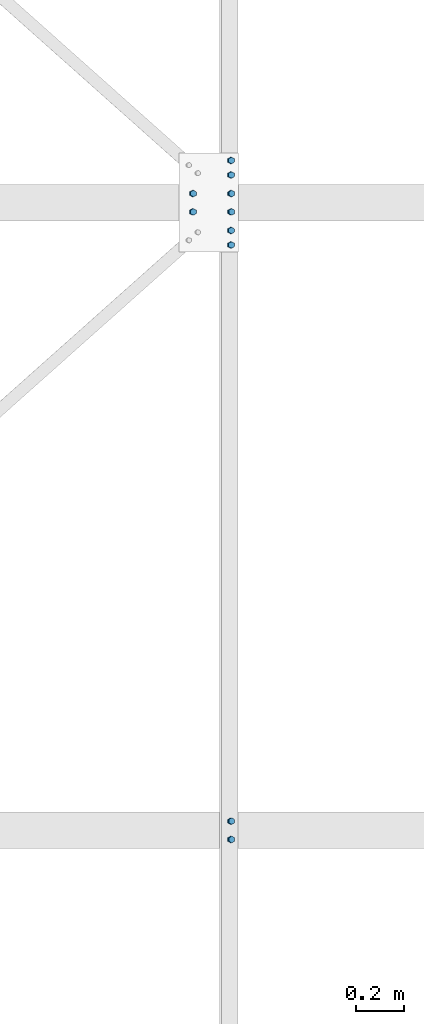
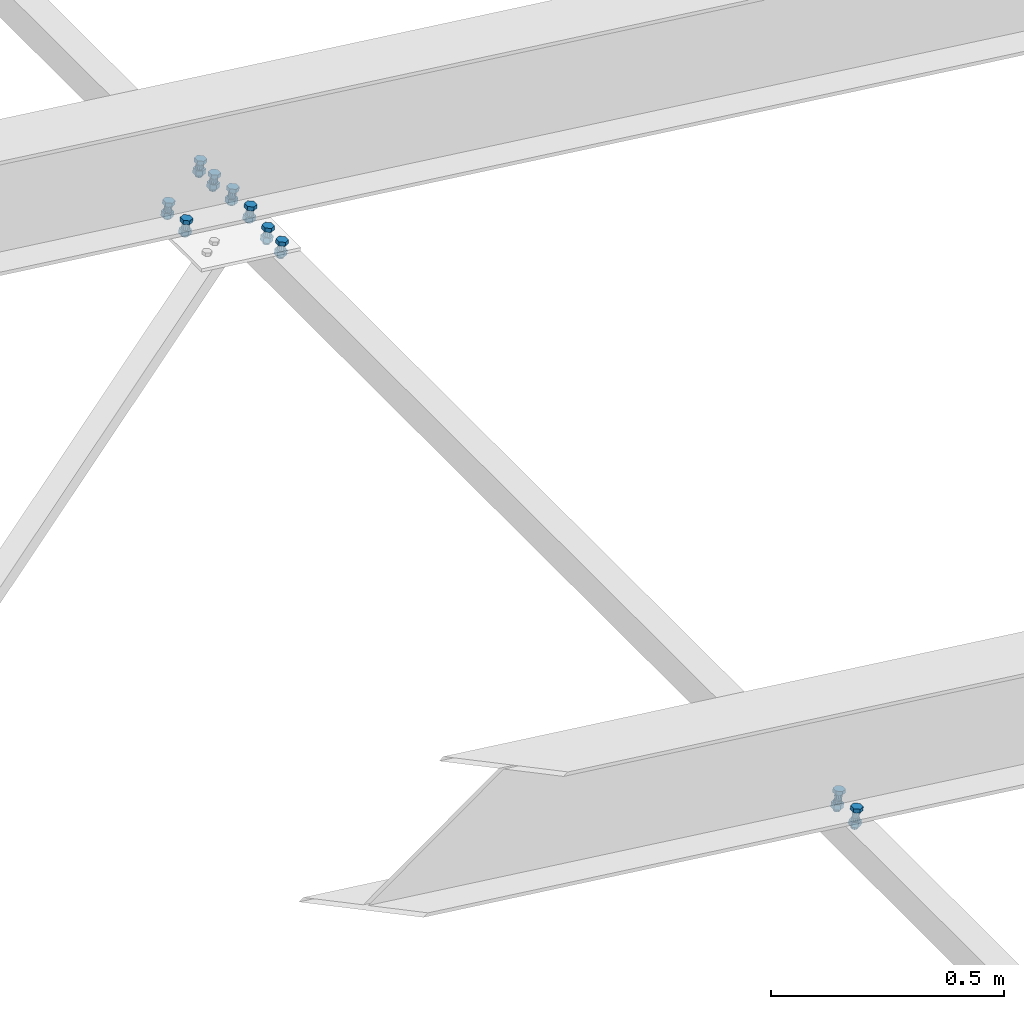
# One storey, part 254 of 3134: 4 mechanical fasteners, 3 elements without a shape of their own.
"""IFC2X3 building model written with IfcOpenShell, lengths in millimetres."""

import ifcopenshell
import ifcopenshell.guid

model = None  # the IFC model being written
_history = None  # IfcOwnerHistory: only IFC2X3 demands one
_inside = {}  # id of a spatial element -> (the spatial element, [elements in it])
_under = {}  # id of a project, library or spatial element -> (it, [spatial elements below it])
_declared = {}  # id of a project -> (the project, [libraries it declares])
_typed = {}  # id of a type object -> (the type object, [elements of that type])
_made_of = {}  # id of a material, layer set ... -> (it, [elements and type objects made of it])


def new_model(schema):
    """Start an empty IFC model of exactly this schema.

    Asked for "IFC4X3", IfcOpenShell would pick the latest addendum, in which some entities
    have other attributes; the version numbers below select the first issue.
    IFC2X3 requires an IfcOwnerHistory on every rooted entity: one is made here for all.
    """
    global model, _history
    if schema == "IFC4X3":
        model = ifcopenshell.file(schema_version=(4, 3, 0, 0))
    else:
        model = ifcopenshell.file(schema=schema)
    _inside.clear()
    _under.clear()
    _declared.clear()
    _typed.clear()
    _made_of.clear()
    _history = None
    if model.schema == "IFC2X3":
        org = make("IfcOrganization", Name="unknown")
        user = make(
            "IfcPersonAndOrganization",
            ThePerson=make("IfcPerson", FamilyName="unknown"),
            TheOrganization=org,
        )
        app = make(
            "IfcApplication",
            ApplicationDeveloper=org,
            Version="unknown",
            ApplicationFullName="unknown",
            ApplicationIdentifier="unknown",
        )
        _history = make(
            "IfcOwnerHistory",
            OwningUser=user,
            OwningApplication=app,
            ChangeAction="ADDED",
            CreationDate=0,
        )
    return model


def make(cls, **values):
    """One entity of the class cls with the attributes given. An attribute that is None is left unset."""
    return model.create_entity(
        cls, **{name: value for name, value in values.items() if value is not None}
    )


def rooted(cls, **values):
    """An entity with a GlobalId (a new one), such as an element, a storey or a relation."""
    return make(cls, GlobalId=ifcopenshell.guid.new(), OwnerHistory=_history, **values)


def si_unit(unit_type, name, prefix=None):
    """IfcSIUnit, for example si_unit("LENGTHUNIT", "METRE", prefix="MILLI")."""
    return make("IfcSIUnit", UnitType=unit_type, Prefix=prefix, Name=name)


def assignment(units):
    """IfcUnitAssignment: the units of a project."""
    return None if units is None else make("IfcUnitAssignment", Units=units)


def point(xyz):
    """IfcCartesianPoint."""
    return None if xyz is None else make("IfcCartesianPoint", Coordinates=xyz)


def direction(xyz):
    """IfcDirection."""
    return None if xyz is None else make("IfcDirection", DirectionRatios=xyz)


def frame(location, z_axis=None, x_axis=None):
    """IfcAxis2Placement3D, a coordinate frame: its origin and axes. An axis left out is left unset."""
    return make(
        "IfcAxis2Placement3D",
        Location=point(location),
        Axis=direction(z_axis),
        RefDirection=direction(x_axis),
    )


def origin_with_axes():
    """The frame at (0, 0, 0) with the z axis (0, 0, 1) and the x axis (1, 0, 0) written out."""
    return frame((0.0, 0.0, 0.0), z_axis=(0.0, 0.0, 1.0), x_axis=(1.0, 0.0, 0.0))


def place(relative_to, where):
    """IfcLocalPlacement: puts the frame where relative to a parent placement (None: the world)."""
    return make(
        "IfcLocalPlacement", PlacementRelTo=relative_to, RelativePlacement=where
    )


def context(
    kind, dimensions, precision=None, world=None, true_north=None, identifier=None
):
    """IfcGeometricRepresentationContext, for example the 3D "Model" context."""
    return make(
        "IfcGeometricRepresentationContext",
        ContextIdentifier=identifier,
        ContextType=kind,
        CoordinateSpaceDimension=dimensions,
        Precision=precision,
        WorldCoordinateSystem=world,
        TrueNorth=true_north,
    )


def subcontext(parent, identifier, kind, view, scale=None):
    """IfcGeometricRepresentationSubContext, for example "Body" below "Model"."""
    return make(
        "IfcGeometricRepresentationSubContext",
        ContextIdentifier=identifier,
        ContextType=kind,
        ParentContext=parent,
        TargetScale=scale,
        TargetView=view,
    )


def project(units=None, contexts=None):
    """IfcProject with its units and contexts."""
    return rooted(
        "IfcProject",
        Name="project",
        RepresentationContexts=contexts,
        UnitsInContext=assignment(units),
    )


def spatial(cls, under=None, at=None, **own):
    """A site, building, storey or space (cls), placed at a placement, below another one or the project."""
    s = rooted(cls, ObjectPlacement=at, **own)
    if under is not None:
        _under.setdefault(under.id(), (under, []))[1].append(s)
    return s


def faces_of(points, faces, orient=None, outer=None):
    """IfcFace entities. A face is a list of loops; a loop is a list of indices into points, from 0.

    orient and outer hold one flag for each loop. By default every Orientation is true, the
    first loop of a face is its IfcFaceOuterBound and the others are IfcFaceBound.
    """
    made = []
    for i, loops in enumerate(faces):
        bounds = []
        for j, loop in enumerate(loops):
            is_outer = j == 0 if outer is None else outer[i][j]
            bounds.append(
                make(
                    "IfcFaceOuterBound" if is_outer else "IfcFaceBound",
                    Bound=make("IfcPolyLoop", Polygon=[points[k] for k in loop]),
                    Orientation=True if orient is None else orient[i][j],
                )
            )
        made.append(make("IfcFace", Bounds=bounds))
    return made


def faceted_brep(points, faces, orient=None, outer=None, voids=None):
    """IfcFacetedBrep: a solid bounded by flat faces; with voids (closed shells), ...WithVoids."""
    shared = [point(p) for p in points]
    hull = make("IfcClosedShell", CfsFaces=faces_of(shared, faces, orient, outer))
    if voids is None:
        return make("IfcFacetedBrep", Outer=hull)
    return make(
        "IfcFacetedBrepWithVoids",
        Outer=hull,
        Voids=[
            make(cls, CfsFaces=faces_of(shared, fs, o, b)) for cls, fs, o, b in voids
        ],
    )


def shape(context_of_items, identifier, shape_type, items):
    """IfcShapeRepresentation: the items that make up one representation, for example the "Body"."""
    return make(
        "IfcShapeRepresentation",
        ContextOfItems=context_of_items,
        RepresentationIdentifier=identifier,
        RepresentationType=shape_type,
        Items=items,
    )


def source(mapping_origin, context_of_items, identifier, shape_type, items):
    """IfcRepresentationMap: a shape defined once, which mapped items show again and again."""
    return make(
        "IfcRepresentationMap",
        MappingOrigin=mapping_origin,
        MappedRepresentation=shape(context_of_items, identifier, shape_type, items),
    )


def transform(
    local_origin,
    x_axis=None,
    y_axis=None,
    z_axis=None,
    scale=None,
    scale2=None,
    scale3=None,
    uniform=True,
):
    """IfcCartesianTransformationOperator3D, or its non-uniform kind. x_axis, y_axis, z_axis: its Axis1, 2, 3."""
    if uniform:
        return make(
            "IfcCartesianTransformationOperator3D",
            Axis1=direction(x_axis),
            Axis2=direction(y_axis),
            LocalOrigin=point(local_origin),
            Scale=scale,
            Axis3=direction(z_axis),
        )
    return make(
        "IfcCartesianTransformationOperator3DnonUniform",
        Axis1=direction(x_axis),
        Axis2=direction(y_axis),
        LocalOrigin=point(local_origin),
        Scale=scale,
        Axis3=direction(z_axis),
        Scale2=scale2,
        Scale3=scale3,
    )


def mapped(mapping_source, mapping_target):
    """IfcMappedItem: shows the shape of a source again, moved by a transform."""
    return make(
        "IfcMappedItem", MappingSource=mapping_source, MappingTarget=mapping_target
    )


def material(Name=None, Category=None):
    """IfcMaterial."""
    return make("IfcMaterial", Name=Name, Category=Category)


def made_of(thing, what):
    """Note that an element or type object is made of a material, layer set ...; save() writes the relation."""
    if what is not None:
        _made_of.setdefault(what.id(), (what, []))[1].append(thing)
    return thing


def type_object(cls, material=None, **own):
    """A type object (cls), such as IfcWallType, which elements share."""
    return made_of(rooted(cls, **own), material)


def element(
    cls,
    number,
    at=None,
    inside=None,
    cuts=None,
    type_object=None,
    material=None,
    context=None,
    identifier="Body",
    shape_type=None,
    held_by="IfcProductDefinitionShape",
    body=None,
    shapes=None,
    **own,
):
    """One element of the class cls, such as IfcWall. Its Tag is "e" and its number.

    at: its placement. inside: the storey or other place that contains it. cuts: it is an
    opening in that element (IfcRelVoidsElement). A single representation is given by context,
    identifier, shape_type and body (its items); several are given by shapes. held_by: the class
    of the entity that holds the representations. save() writes the other relations.
    """
    e = rooted(cls, Tag="e%d" % number, ObjectPlacement=at, **own)
    if body is not None:
        shapes = [shape(context, identifier, shape_type, body)]
    if shapes is not None:
        e.Representation = make(held_by, Representations=shapes)
    if inside is not None:
        _inside.setdefault(inside.id(), (inside, []))[1].append(e)
    if cuts is not None:
        rooted(
            "IfcRelVoidsElement", RelatingBuildingElement=cuts, RelatedOpeningElement=e
        )
    if type_object is not None:
        _typed.setdefault(type_object.id(), (type_object, []))[1].append(e)
    return made_of(e, material)


def aggregate(whole, parts):
    """IfcRelAggregates: a whole, such as a stair, and the parts it consists of."""
    return rooted("IfcRelAggregates", RelatingObject=whole, RelatedObjects=parts)


def save(model, path):
    """Write the relations noted so far, then the file.

    IfcRelAggregates (storeys below a building ...), IfcRelContainedInSpatialStructure (elements
    in a storey), IfcRelDefinesByType, IfcRelAssociatesMaterial and IfcRelDeclares: one each for
    every whole, place, type object, material and project.
    """
    for whole, parts in _under.values():
        aggregate(whole, parts)
    for where, things in _inside.values():
        rooted(
            "IfcRelContainedInSpatialStructure",
            RelatedElements=things,
            RelatingStructure=where,
        )
    for kind, things in _typed.values():
        rooted("IfcRelDefinesByType", RelatedObjects=things, RelatingType=kind)
    for what, things in _made_of.values():
        rooted("IfcRelAssociatesMaterial", RelatedObjects=things, RelatingMaterial=what)
    for by, libraries in _declared.values():
        rooted("IfcRelDeclares", RelatingContext=by, RelatedDefinitions=libraries)
    model.write(path)


model = new_model("IFC2X3")

# Units and contexts
model_context = context("Model", 3, precision=1e-05, world=origin_with_axes())
body_context = subcontext(model_context, "Body", "Model", "MODEL_VIEW")
ifc_project = project(units=[si_unit("LENGTHUNIT", "METRE", prefix="MILLI"), si_unit("AREAUNIT", "SQUARE_METRE"), si_unit("VOLUMEUNIT", "CUBIC_METRE"), si_unit("MASSUNIT", "GRAM", prefix="KILO"), si_unit("TIMEUNIT", "SECOND"), si_unit("PLANEANGLEUNIT", "RADIAN"), si_unit("SOLIDANGLEUNIT", "STERADIAN"), si_unit("THERMODYNAMICTEMPERATUREUNIT", "DEGREE_CELSIUS"), si_unit("LUMINOUSINTENSITYUNIT", "LUMEN")], contexts=[model_context])

# Site, building, storey
site_placement = place(None, origin_with_axes())
site = spatial("IfcSite", under=ifc_project, at=site_placement, CompositionType="ELEMENT")
building_placement = place(site_placement, origin_with_axes())
building = spatial("IfcBuilding", under=site, at=building_placement, Name="Undefined", CompositionType="ELEMENT")
storey_placement = place(building_placement, origin_with_axes())
storey = spatial("IfcBuildingStorey", under=building, at=storey_placement, Name="Undefined", CompositionType="ELEMENT", Elevation=0.0)

# Assembly, mechanical fastener
assembly_1_placement = place(storey_placement, origin_with_axes())
assembly_1 = element("IfcElementAssembly", 1, at=assembly_1_placement, inside=storey, Name="300", AssemblyPlace="NOTDEFINED", PredefinedType="RIGID_FRAME")
ifc_material = material(Name="8.8")
mechanical_fastener_type = type_object("IfcMechanicalFastenerType", Name="Bolt assembly")
shared_shape_1 = source(origin_with_axes(), body_context, "Body", "Brep", [
    faceted_brep([(13.856406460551, -19.199990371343, 0.0), (6.92820323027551, -19.199990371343, 12.0), (-6.92820323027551, -19.199990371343, 12.0), (-13.856406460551, -19.199990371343, 1.69692038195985e-15), (-6.92820323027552, -19.199990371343, -12.0), (6.9282032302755, -19.199990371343, -12.0), (6.9282032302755, -9.19999037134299, -12.0), (-6.92820323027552, -9.19999037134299, -12.0), (-13.856406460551, -9.19999037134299, 1.69692038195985e-15), (-6.92820323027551, -9.19999037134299, 12.0), (6.92820323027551, -9.19999037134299, 12.0), (13.856406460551, -9.19999037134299, 0.0), (8.0, -9.19999037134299, 0.0), (6.92820323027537, -9.19999037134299, 4.00000000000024), (3.99999999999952, -9.19999037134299, 6.92820323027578), (-8.29068785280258e-13, -9.19999037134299, 8.0), (-4.00000000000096, -9.19999037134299, 6.92820323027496), (-6.9282032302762, -9.19999037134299, 3.99999999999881), (-8.0, -9.19999037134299, -1.65813757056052e-12), (-6.92820323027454, -9.19999037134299, -4.00000000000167), (-3.99999999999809, -9.19999037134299, -6.92820323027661), (2.47832457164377e-12, -9.19999037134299, -8.0), (4.00000000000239, -9.19999037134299, -6.92820323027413), (6.92820323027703, -9.19999037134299, -3.99999999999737), (6.92820323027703, 25.800009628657, -3.99999999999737), (4.00000000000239, 25.800009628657, -6.92820323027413), (2.47832457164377e-12, 25.800009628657, -8.0), (-3.99999999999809, 25.800009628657, -6.92820323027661), (-6.92820323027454, 25.800009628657, -4.00000000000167), (-8.0, 25.800009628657, -1.65813757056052e-12), (-6.9282032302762, 25.800009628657, 3.99999999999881), (-4.00000000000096, 25.800009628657, 6.92820323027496), (-8.29068785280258e-13, 25.800009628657, 8.0), (3.99999999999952, 25.800009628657, 6.92820323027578), (6.92820323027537, 25.800009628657, 4.00000000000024), (8.0, 25.800009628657, 0.0), (13.856406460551, 8.00000637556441, 0.0), (6.92820323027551, 8.00000637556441, 12.0), (-6.92820323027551, 8.00000637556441, 12.0), (-13.856406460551, 8.00000637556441, 1.69692038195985e-15), (-6.92820323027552, 8.00000637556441, -12.0), (6.9282032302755, 8.00000637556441, -12.0), (6.9282032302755, 21.0000063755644, -12.0), (-6.92820323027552, 21.0000063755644, -12.0), (-13.856406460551, 21.0000063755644, 1.69692038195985e-15), (-6.92820323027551, 21.0000063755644, 12.0), (6.92820323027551, 21.0000063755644, 12.0), (13.856406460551, 21.0000063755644, 0.0)], [[[0, 1, 2, 3, 4, 5]], [[6, 7, 8, 9, 10, 11]], [[0, 11, 10, 1]], [[1, 10, 9, 2]], [[2, 9, 8, 3]], [[3, 8, 7, 4]], [[4, 7, 6, 5]], [[5, 6, 11, 0]], [[12, 13, 14, 15, 16, 17, 18, 19, 20, 21, 22, 23]], [[24, 25, 26, 27, 28, 29, 30, 31, 32, 33, 34, 35]], [[12, 35, 34, 13]], [[13, 34, 33, 14]], [[14, 33, 32, 15]], [[15, 32, 31, 16]], [[16, 31, 30, 17]], [[17, 30, 29, 18]], [[18, 29, 28, 19]], [[19, 28, 27, 20]], [[20, 27, 26, 21]], [[21, 26, 25, 22]], [[22, 25, 24, 23]], [[23, 24, 35, 12]], [[36, 37, 38, 39, 40, 41]], [[42, 43, 44, 45, 46, 47]], [[36, 47, 46, 37]], [[37, 46, 45, 38]], [[38, 45, 44, 39]], [[39, 44, 43, 40]], [[40, 43, 42, 41]], [[41, 42, 47, 36]]]),
    faceted_brep([(9.0, -0.1, 0.0), (7.79422863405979, -0.1, 4.50000000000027), (4.49999999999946, -0.1, 7.79422863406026), (-9.3270238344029e-13, -0.1, 9.0), (-4.50000000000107, -0.1, 7.79422863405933), (-7.79422863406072, -0.1, 4.49999999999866), (-9.0, -0.1, -1.86540476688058e-12), (-7.79422863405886, -0.1, -4.50000000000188), (-4.49999999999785, -0.1, -7.79422863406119), (2.78811514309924e-12, -0.1, -9.0), (4.50000000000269, -0.1, -7.7942286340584), (7.79422863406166, -0.1, -4.49999999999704), (7.79422863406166, 8.00000000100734, -4.49999999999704), (4.50000000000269, 8.00000000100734, -7.7942286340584), (2.78811514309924e-12, 8.00000000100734, -9.0), (-4.49999999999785, 8.00000000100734, -7.79422863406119), (-7.79422863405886, 8.00000000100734, -4.50000000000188), (-9.0, 8.00000000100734, -1.86540476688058e-12), (-7.79422863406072, 8.00000000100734, 4.49999999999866), (-4.50000000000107, 8.00000000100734, 7.79422863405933), (-9.3270238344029e-13, 8.00000000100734, 9.0), (4.49999999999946, 8.00000000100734, 7.79422863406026), (7.79422863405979, 8.00000000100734, 4.50000000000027), (9.0, 8.00000000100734, 0.0), (9.0, -9.09999037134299, 0.0), (7.79422863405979, -9.09999037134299, 4.50000000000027), (4.49999999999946, -9.09999037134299, 7.79422863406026), (-9.3270238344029e-13, -9.09999037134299, 9.0), (-4.50000000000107, -9.09999037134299, 7.79422863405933), (-7.79422863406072, -9.09999037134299, 4.49999999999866), (-9.0, -9.09999037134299, -1.86540476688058e-12), (-7.79422863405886, -9.09999037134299, -4.50000000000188), (-4.49999999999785, -9.09999037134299, -7.79422863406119), (2.78811514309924e-12, -9.09999037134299, -9.0), (4.50000000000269, -9.09999037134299, -7.7942286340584), (7.79422863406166, -9.09999037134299, -4.49999999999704), (7.79422863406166, 0.100000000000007, -4.49999999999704), (4.50000000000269, 0.100000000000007, -7.7942286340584), (2.78811514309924e-12, 0.100000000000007, -9.0), (-4.49999999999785, 0.100000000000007, -7.79422863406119), (-7.79422863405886, 0.100000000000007, -4.50000000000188), (-9.0, 0.100000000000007, -1.86540476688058e-12), (-7.79422863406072, 0.100000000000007, 4.49999999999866), (-4.50000000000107, 0.100000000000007, 7.79422863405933), (-9.3270238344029e-13, 0.100000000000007, 9.0), (4.49999999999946, 0.100000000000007, 7.79422863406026), (7.79422863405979, 0.100000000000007, 4.50000000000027), (9.0, 0.100000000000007, 0.0)], [[[0, 1, 2, 3, 4, 5, 6, 7, 8, 9, 10, 11]], [[12, 13, 14, 15, 16, 17, 18, 19, 20, 21, 22, 23]], [[0, 23, 22, 1]], [[1, 22, 21, 2]], [[2, 21, 20, 3]], [[3, 20, 19, 4]], [[4, 19, 18, 5]], [[5, 18, 17, 6]], [[6, 17, 16, 7]], [[7, 16, 15, 8]], [[8, 15, 14, 9]], [[9, 14, 13, 10]], [[10, 13, 12, 11]], [[11, 12, 23, 0]], [[24, 25, 26, 27, 28, 29, 30, 31, 32, 33, 34, 35]], [[36, 37, 38, 39, 40, 41, 42, 43, 44, 45, 46, 47]], [[24, 47, 46, 25]], [[25, 46, 45, 26]], [[26, 45, 44, 27]], [[27, 44, 43, 28]], [[28, 43, 42, 29]], [[29, 42, 41, 30]], [[30, 41, 40, 31]], [[31, 40, 39, 32]], [[32, 39, 38, 33]], [[33, 38, 37, 34]], [[34, 37, 36, 35]], [[35, 36, 47, 24]]]),
])
mechanical_fastener_1_placement = place(assembly_1_placement, frame((38283.5751064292, 45412.0, 4816.43281405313), z_axis=(-0.992623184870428, 0.0, 0.121240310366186), x_axis=(0.0, 1.0, 0.0)))
mechanical_fastener_1 = element("IfcMechanicalFastener", 2, at=mechanical_fastener_1_placement, type_object=mechanical_fastener_type, material=ifc_material, Name="Bolt assembly", NominalDiameter=16.0, NominalLength=35.0, context=body_context, shape_type="MappedRepresentation", body=[
    mapped(shared_shape_1, transform((0.0, -5.32963895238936e-10, -79.9999999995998))),
    mapped(shared_shape_1, transform((76.0, -5.32963895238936e-10, -79.9999999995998))),
    mapped(shared_shape_1, transform((0.0, 5.3114490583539e-10, 79.9999999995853))),
    mapped(shared_shape_1, transform((76.0, 5.3114490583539e-10, 79.9999999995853))),
])
aggregate(assembly_1, [mechanical_fastener_1])

# Assembly, mechanical fasteners
assembly_2_placement = place(storey_placement, origin_with_axes())
assembly_2 = element("IfcElementAssembly", 3, at=assembly_2_placement, inside=storey, Name="PL8", AssemblyPlace="NOTDEFINED", PredefinedType="RIGID_FRAME")
shared_shape_2 = source(origin_with_axes(), body_context, "Body", "Brep", [
    faceted_brep([(13.856406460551, -10.0, 0.0), (6.92820323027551, -10.0, 12.0), (-6.92820323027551, -10.0, 12.0), (-13.856406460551, -10.0, 1.69692038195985e-15), (-6.92820323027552, -10.0, -12.0), (6.9282032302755, -10.0, -12.0), (6.9282032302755, 0.0, -12.0), (-6.92820323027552, 0.0, -12.0), (-13.856406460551, 0.0, 1.69692038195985e-15), (-6.92820323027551, 0.0, 12.0), (6.92820323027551, 0.0, 12.0), (13.856406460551, 0.0, 0.0), (8.0, 0.0, 0.0), (6.92820323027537, 0.0, 4.00000000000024), (3.99999999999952, 0.0, 6.92820323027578), (-8.29068785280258e-13, 0.0, 8.0), (-4.00000000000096, 0.0, 6.92820323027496), (-6.9282032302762, 0.0, 3.99999999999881), (-8.0, 0.0, -1.65813757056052e-12), (-6.92820323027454, 0.0, -4.00000000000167), (-3.99999999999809, 0.0, -6.92820323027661), (2.47832457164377e-12, 0.0, -8.0), (4.00000000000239, 0.0, -6.92820323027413), (6.92820323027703, 0.0, -3.99999999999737), (6.92820323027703, 35.0000000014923, -3.99999999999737), (4.00000000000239, 35.0000000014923, -6.92820323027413), (2.47832457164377e-12, 35.0000000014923, -8.0), (-3.99999999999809, 35.0000000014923, -6.92820323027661), (-6.92820323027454, 35.0000000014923, -4.00000000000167), (-8.0, 35.0000000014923, -1.65813757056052e-12), (-6.9282032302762, 35.0000000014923, 3.99999999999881), (-4.00000000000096, 35.0000000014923, 6.92820323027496), (-8.29068785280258e-13, 35.0000000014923, 8.0), (3.99999999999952, 35.0000000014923, 6.92820323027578), (6.92820323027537, 35.0000000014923, 4.00000000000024), (8.0, 35.0000000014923, 0.0), (13.856406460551, 14.9990000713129, 0.0), (6.92820323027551, 14.9990000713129, 12.0), (-6.92820323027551, 14.9990000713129, 12.0), (-13.856406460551, 14.9990000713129, 1.69692038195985e-15), (-6.92820323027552, 14.9990000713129, -12.0), (6.9282032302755, 14.9990000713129, -12.0), (6.9282032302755, 27.9990000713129, -12.0), (-6.92820323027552, 27.9990000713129, -12.0), (-13.856406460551, 27.9990000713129, 1.69692038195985e-15), (-6.92820323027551, 27.9990000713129, 12.0), (6.92820323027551, 27.9990000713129, 12.0), (13.856406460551, 27.9990000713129, 0.0)], [[[0, 1, 2, 3, 4, 5]], [[6, 7, 8, 9, 10, 11]], [[0, 11, 10, 1]], [[1, 10, 9, 2]], [[2, 9, 8, 3]], [[3, 8, 7, 4]], [[4, 7, 6, 5]], [[5, 6, 11, 0]], [[12, 13, 14, 15, 16, 17, 18, 19, 20, 21, 22, 23]], [[24, 25, 26, 27, 28, 29, 30, 31, 32, 33, 34, 35]], [[12, 35, 34, 13]], [[13, 34, 33, 14]], [[14, 33, 32, 15]], [[15, 32, 31, 16]], [[16, 31, 30, 17]], [[17, 30, 29, 18]], [[18, 29, 28, 19]], [[19, 28, 27, 20]], [[20, 27, 26, 21]], [[21, 26, 25, 22]], [[22, 25, 24, 23]], [[23, 24, 35, 12]], [[36, 37, 38, 39, 40, 41]], [[42, 43, 44, 45, 46, 47]], [[36, 47, 46, 37]], [[37, 46, 45, 38]], [[38, 45, 44, 39]], [[39, 44, 43, 40]], [[40, 43, 42, 41]], [[41, 42, 47, 36]]]),
    faceted_brep([(9.0, 7.89900007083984, 0.0), (7.79422863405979, 7.89900007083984, 4.50000000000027), (4.49999999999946, 7.89900007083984, 7.79422863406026), (-9.3270238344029e-13, 7.89900007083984, 9.0), (-4.50000000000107, 7.89900007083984, 7.79422863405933), (-7.79422863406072, 7.89900007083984, 4.49999999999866), (-9.0, 7.89900007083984, -1.86540476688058e-12), (-7.79422863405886, 7.89900007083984, -4.50000000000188), (-4.49999999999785, 7.89900007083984, -7.79422863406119), (2.78811514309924e-12, 7.89900007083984, -9.0), (4.50000000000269, 7.89900007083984, -7.7942286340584), (7.79422863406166, 7.89900007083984, -4.49999999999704), (7.79422863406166, 14.9990000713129, -4.49999999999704), (4.50000000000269, 14.9990000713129, -7.7942286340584), (2.78811514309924e-12, 14.9990000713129, -9.0), (-4.49999999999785, 14.9990000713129, -7.79422863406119), (-7.79422863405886, 14.9990000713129, -4.50000000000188), (-9.0, 14.9990000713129, -1.86540476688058e-12), (-7.79422863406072, 14.9990000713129, 4.49999999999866), (-4.50000000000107, 14.9990000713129, 7.79422863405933), (-9.3270238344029e-13, 14.9990000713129, 9.0), (4.49999999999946, 14.9990000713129, 7.79422863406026), (7.79422863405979, 14.9990000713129, 4.50000000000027), (9.0, 14.9990000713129, 0.0), (9.0, 0.100000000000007, 0.0), (7.79422863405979, 0.100000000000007, 4.50000000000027), (4.49999999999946, 0.100000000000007, 7.79422863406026), (-9.3270238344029e-13, 0.100000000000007, 9.0), (-4.50000000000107, 0.100000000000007, 7.79422863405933), (-7.79422863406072, 0.100000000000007, 4.49999999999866), (-9.0, 0.100000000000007, -1.86540476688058e-12), (-7.79422863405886, 0.100000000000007, -4.50000000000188), (-4.49999999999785, 0.100000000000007, -7.79422863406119), (2.78811514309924e-12, 0.100000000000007, -9.0), (4.50000000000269, 0.100000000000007, -7.7942286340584), (7.79422863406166, 0.100000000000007, -4.49999999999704), (7.79422863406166, 8.1, -4.49999999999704), (4.50000000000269, 8.1, -7.7942286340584), (2.78811514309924e-12, 8.1, -9.0), (-4.49999999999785, 8.1, -7.79422863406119), (-7.79422863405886, 8.1, -4.50000000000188), (-9.0, 8.1, -1.86540476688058e-12), (-7.79422863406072, 8.1, 4.49999999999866), (-4.50000000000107, 8.1, 7.79422863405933), (-9.3270238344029e-13, 8.1, 9.0), (4.49999999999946, 8.1, 7.79422863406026), (7.79422863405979, 8.1, 4.50000000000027), (9.0, 8.1, 0.0)], [[[0, 1, 2, 3, 4, 5, 6, 7, 8, 9, 10, 11]], [[12, 13, 14, 15, 16, 17, 18, 19, 20, 21, 22, 23]], [[0, 23, 22, 1]], [[1, 22, 21, 2]], [[2, 21, 20, 3]], [[3, 20, 19, 4]], [[4, 19, 18, 5]], [[5, 18, 17, 6]], [[6, 17, 16, 7]], [[7, 16, 15, 8]], [[8, 15, 14, 9]], [[9, 14, 13, 10]], [[10, 13, 12, 11]], [[11, 12, 23, 0]], [[24, 25, 26, 27, 28, 29, 30, 31, 32, 33, 34, 35]], [[36, 37, 38, 39, 40, 41, 42, 43, 44, 45, 46, 47]], [[24, 47, 46, 25]], [[25, 46, 45, 26]], [[26, 45, 44, 27]], [[27, 44, 43, 28]], [[28, 43, 42, 29]], [[29, 42, 41, 30]], [[30, 41, 40, 31]], [[31, 40, 39, 32]], [[32, 39, 38, 33]], [[33, 38, 37, 34]], [[34, 37, 36, 35]], [[35, 36, 47, 24]]]),
])
mechanical_fastener_2_placement = place(assembly_2_placement, frame((38362.9849612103, 45335.0, 4806.73358922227), z_axis=(0.992623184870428, 0.0, -0.121240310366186), x_axis=(0.0, -1.0, 0.0)))
mechanical_fastener_2 = element("IfcMechanicalFastener", 4, at=mechanical_fastener_2_placement, type_object=mechanical_fastener_type, material=ifc_material, Name="Bolt assembly", NominalDiameter=16.0, NominalLength=35.0, context=body_context, shape_type="MappedRepresentation", body=[
    mapped(shared_shape_2, transform((0.0, 0.0, 0.0))),
    mapped(shared_shape_2, transform((59.9999999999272, 0.0, 5.40239852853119e-10))),
])
shared_shape_3 = source(origin_with_axes(), body_context, "Body", "Brep", [
    faceted_brep([(13.856406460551, -10.0, 0.0), (6.92820323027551, -10.0, 12.0), (-6.92820323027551, -10.0, 12.0), (-13.856406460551, -10.0, 1.69692038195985e-15), (-6.92820323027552, -10.0, -12.0), (6.9282032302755, -10.0, -12.0), (6.9282032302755, 0.0, -12.0), (-6.92820323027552, 0.0, -12.0), (-13.856406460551, 0.0, 1.69692038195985e-15), (-6.92820323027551, 0.0, 12.0), (6.92820323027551, 0.0, 12.0), (13.856406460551, 0.0, 0.0), (8.0, 0.0, 0.0), (6.92820323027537, 0.0, 4.00000000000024), (3.99999999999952, 0.0, 6.92820323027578), (-8.29068785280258e-13, 0.0, 8.0), (-4.00000000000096, 0.0, 6.92820323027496), (-6.9282032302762, 0.0, 3.99999999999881), (-8.0, 0.0, -1.65813757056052e-12), (-6.92820323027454, 0.0, -4.00000000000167), (-3.99999999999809, 0.0, -6.92820323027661), (2.47832457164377e-12, 0.0, -8.0), (4.00000000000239, 0.0, -6.92820323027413), (6.92820323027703, 0.0, -3.99999999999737), (6.92820323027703, 35.0000000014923, -3.99999999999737), (4.00000000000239, 35.0000000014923, -6.92820323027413), (2.47832457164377e-12, 35.0000000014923, -8.0), (-3.99999999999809, 35.0000000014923, -6.92820323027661), (-6.92820323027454, 35.0000000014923, -4.00000000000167), (-8.0, 35.0000000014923, -1.65813757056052e-12), (-6.9282032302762, 35.0000000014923, 3.99999999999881), (-4.00000000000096, 35.0000000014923, 6.92820323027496), (-8.29068785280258e-13, 35.0000000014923, 8.0), (3.99999999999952, 35.0000000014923, 6.92820323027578), (6.92820323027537, 35.0000000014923, 4.00000000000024), (8.0, 35.0000000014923, 0.0), (13.856406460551, 14.9999995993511, 0.0), (6.92820323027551, 14.9999995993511, 12.0), (-6.92820323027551, 14.9999995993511, 12.0), (-13.856406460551, 14.9999995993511, 1.69692038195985e-15), (-6.92820323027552, 14.9999995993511, -12.0), (6.9282032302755, 14.9999995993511, -12.0), (6.9282032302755, 27.9999995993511, -12.0), (-6.92820323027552, 27.9999995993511, -12.0), (-13.856406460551, 27.9999995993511, 1.69692038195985e-15), (-6.92820323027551, 27.9999995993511, 12.0), (6.92820323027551, 27.9999995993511, 12.0), (13.856406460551, 27.9999995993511, 0.0)], [[[0, 1, 2, 3, 4, 5]], [[6, 7, 8, 9, 10, 11]], [[0, 11, 10, 1]], [[1, 10, 9, 2]], [[2, 9, 8, 3]], [[3, 8, 7, 4]], [[4, 7, 6, 5]], [[5, 6, 11, 0]], [[12, 13, 14, 15, 16, 17, 18, 19, 20, 21, 22, 23]], [[24, 25, 26, 27, 28, 29, 30, 31, 32, 33, 34, 35]], [[12, 35, 34, 13]], [[13, 34, 33, 14]], [[14, 33, 32, 15]], [[15, 32, 31, 16]], [[16, 31, 30, 17]], [[17, 30, 29, 18]], [[18, 29, 28, 19]], [[19, 28, 27, 20]], [[20, 27, 26, 21]], [[21, 26, 25, 22]], [[22, 25, 24, 23]], [[23, 24, 35, 12]], [[36, 37, 38, 39, 40, 41]], [[42, 43, 44, 45, 46, 47]], [[36, 47, 46, 37]], [[37, 46, 45, 38]], [[38, 45, 44, 39]], [[39, 44, 43, 40]], [[40, 43, 42, 41]], [[41, 42, 47, 36]]]),
    faceted_brep([(9.0, 7.9, 0.0), (7.79422863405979, 7.9, 4.50000000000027), (4.49999999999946, 7.9, 7.79422863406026), (-9.3270238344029e-13, 7.9, 9.0), (-4.50000000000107, 7.9, 7.79422863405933), (-7.79422863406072, 7.9, 4.49999999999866), (-9.0, 7.9, -1.86540476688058e-12), (-7.79422863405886, 7.9, -4.50000000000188), (-4.49999999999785, 7.9, -7.79422863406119), (2.78811514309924e-12, 7.9, -9.0), (4.50000000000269, 7.9, -7.7942286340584), (7.79422863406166, 7.9, -4.49999999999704), (7.79422863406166, 14.9999995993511, -4.49999999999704), (4.50000000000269, 14.9999995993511, -7.7942286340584), (2.78811514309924e-12, 14.9999995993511, -9.0), (-4.49999999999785, 14.9999995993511, -7.79422863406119), (-7.79422863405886, 14.9999995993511, -4.50000000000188), (-9.0, 14.9999995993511, -1.86540476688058e-12), (-7.79422863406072, 14.9999995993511, 4.49999999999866), (-4.50000000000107, 14.9999995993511, 7.79422863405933), (-9.3270238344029e-13, 14.9999995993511, 9.0), (4.49999999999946, 14.9999995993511, 7.79422863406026), (7.79422863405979, 14.9999995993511, 4.50000000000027), (9.0, 14.9999995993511, 0.0), (9.0, 0.100000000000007, 0.0), (7.79422863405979, 0.100000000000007, 4.50000000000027), (4.49999999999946, 0.100000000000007, 7.79422863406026), (-9.3270238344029e-13, 0.100000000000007, 9.0), (-4.50000000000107, 0.100000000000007, 7.79422863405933), (-7.79422863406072, 0.100000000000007, 4.49999999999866), (-9.0, 0.100000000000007, -1.86540476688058e-12), (-7.79422863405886, 0.100000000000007, -4.50000000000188), (-4.49999999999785, 0.100000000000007, -7.79422863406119), (2.78811514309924e-12, 0.100000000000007, -9.0), (4.50000000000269, 0.100000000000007, -7.7942286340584), (7.79422863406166, 0.100000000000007, -4.49999999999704), (7.79422863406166, 8.1, -4.49999999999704), (4.50000000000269, 8.1, -7.7942286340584), (2.78811514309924e-12, 8.1, -9.0), (-4.49999999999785, 8.1, -7.79422863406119), (-7.79422863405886, 8.1, -4.50000000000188), (-9.0, 8.1, -1.86540476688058e-12), (-7.79422863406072, 8.1, 4.49999999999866), (-4.50000000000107, 8.1, 7.79422863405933), (-9.3270238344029e-13, 8.1, 9.0), (4.49999999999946, 8.1, 7.79422863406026), (7.79422863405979, 8.1, 4.50000000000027), (9.0, 8.1, 0.0)], [[[0, 1, 2, 3, 4, 5, 6, 7, 8, 9, 10, 11]], [[12, 13, 14, 15, 16, 17, 18, 19, 20, 21, 22, 23]], [[0, 23, 22, 1]], [[1, 22, 21, 2]], [[2, 21, 20, 3]], [[3, 20, 19, 4]], [[4, 19, 18, 5]], [[5, 18, 17, 6]], [[6, 17, 16, 7]], [[7, 16, 15, 8]], [[8, 15, 14, 9]], [[9, 14, 13, 10]], [[10, 13, 12, 11]], [[11, 12, 23, 0]], [[24, 25, 26, 27, 28, 29, 30, 31, 32, 33, 34, 35]], [[36, 37, 38, 39, 40, 41, 42, 43, 44, 45, 46, 47]], [[24, 47, 46, 25]], [[25, 46, 45, 26]], [[26, 45, 44, 27]], [[27, 44, 43, 28]], [[28, 43, 42, 29]], [[29, 42, 41, 30]], [[30, 41, 40, 31]], [[31, 40, 39, 32]], [[32, 39, 38, 33]], [[33, 38, 37, 34]], [[34, 37, 36, 35]], [[35, 36, 47, 24]]]),
])
mechanical_fastener_3_placement = place(assembly_2_placement, frame((38362.9849612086, 45625.0, 4806.73358922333), z_axis=(0.992623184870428, 0.0, -0.121240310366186), x_axis=(0.0, -1.0, 0.0)))
mechanical_fastener_3 = element("IfcMechanicalFastener", 5, at=mechanical_fastener_3_placement, type_object=mechanical_fastener_type, material=ifc_material, Name="Bolt assembly", NominalDiameter=16.0, NominalLength=35.0, context=body_context, shape_type="MappedRepresentation", body=[
    mapped(shared_shape_3, transform((0.0, 0.0, 0.0))),
    mapped(shared_shape_3, transform((59.9999999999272, 0.0, 5.40239852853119e-10))),
])
aggregate(assembly_2, [mechanical_fastener_2, mechanical_fastener_3])

# Assembly, mechanical fastener
assembly_3_placement = place(storey_placement, origin_with_axes())
assembly_3 = element("IfcElementAssembly", 6, at=assembly_3_placement, inside=storey, AssemblyPlace="NOTDEFINED", PredefinedType="RIGID_FRAME")
shared_shape_4 = source(origin_with_axes(), body_context, "Body", "Brep", [
    faceted_brep([(13.856406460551, -19.199990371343, 0.0), (6.92820323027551, -19.199990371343, 12.0), (-6.92820323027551, -19.199990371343, 12.0), (-13.856406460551, -19.199990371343, 1.69692038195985e-15), (-6.92820323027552, -19.199990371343, -12.0), (6.9282032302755, -19.199990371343, -12.0), (6.9282032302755, -9.19999037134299, -12.0), (-6.92820323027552, -9.19999037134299, -12.0), (-13.856406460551, -9.19999037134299, 1.69692038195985e-15), (-6.92820323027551, -9.19999037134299, 12.0), (6.92820323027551, -9.19999037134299, 12.0), (13.856406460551, -9.19999037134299, 0.0), (8.0, -9.19999037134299, 0.0), (6.92820323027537, -9.19999037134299, 4.00000000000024), (3.99999999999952, -9.19999037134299, 6.92820323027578), (-8.29068785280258e-13, -9.19999037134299, 8.0), (-4.00000000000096, -9.19999037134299, 6.92820323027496), (-6.9282032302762, -9.19999037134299, 3.99999999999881), (-8.0, -9.19999037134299, -1.65813757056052e-12), (-6.92820323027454, -9.19999037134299, -4.00000000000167), (-3.99999999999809, -9.19999037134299, -6.92820323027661), (2.47832457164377e-12, -9.19999037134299, -8.0), (4.00000000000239, -9.19999037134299, -6.92820323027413), (6.92820323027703, -9.19999037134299, -3.99999999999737), (6.92820323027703, 35.8000002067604, -3.99999999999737), (4.00000000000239, 35.8000002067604, -6.92820323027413), (2.47832457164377e-12, 35.8000002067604, -8.0), (-3.99999999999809, 35.8000002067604, -6.92820323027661), (-6.92820323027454, 35.8000002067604, -4.00000000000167), (-8.0, 35.8000002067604, -1.65813757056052e-12), (-6.9282032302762, 35.8000002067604, 3.99999999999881), (-4.00000000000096, 35.8000002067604, 6.92820323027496), (-8.29068785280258e-13, 35.8000002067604, 8.0), (3.99999999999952, 35.8000002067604, 6.92820323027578), (6.92820323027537, 35.8000002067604, 4.00000000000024), (8.0, 35.8000002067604, 0.0), (13.856406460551, 14.9990000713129, 0.0), (6.92820323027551, 14.9990000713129, 12.0), (-6.92820323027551, 14.9990000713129, 12.0), (-13.856406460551, 14.9990000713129, 1.69692038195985e-15), (-6.92820323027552, 14.9990000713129, -12.0), (6.9282032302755, 14.9990000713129, -12.0), (6.9282032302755, 27.9990000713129, -12.0), (-6.92820323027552, 27.9990000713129, -12.0), (-13.856406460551, 27.9990000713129, 1.69692038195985e-15), (-6.92820323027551, 27.9990000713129, 12.0), (6.92820323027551, 27.9990000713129, 12.0), (13.856406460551, 27.9990000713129, 0.0)], [[[0, 1, 2, 3, 4, 5]], [[6, 7, 8, 9, 10, 11]], [[0, 11, 10, 1]], [[1, 10, 9, 2]], [[2, 9, 8, 3]], [[3, 8, 7, 4]], [[4, 7, 6, 5]], [[5, 6, 11, 0]], [[12, 13, 14, 15, 16, 17, 18, 19, 20, 21, 22, 23]], [[24, 25, 26, 27, 28, 29, 30, 31, 32, 33, 34, 35]], [[12, 35, 34, 13]], [[13, 34, 33, 14]], [[14, 33, 32, 15]], [[15, 32, 31, 16]], [[16, 31, 30, 17]], [[17, 30, 29, 18]], [[18, 29, 28, 19]], [[19, 28, 27, 20]], [[20, 27, 26, 21]], [[21, 26, 25, 22]], [[22, 25, 24, 23]], [[23, 24, 35, 12]], [[36, 37, 38, 39, 40, 41]], [[42, 43, 44, 45, 46, 47]], [[36, 47, 46, 37]], [[37, 46, 45, 38]], [[38, 45, 44, 39]], [[39, 44, 43, 40]], [[40, 43, 42, 41]], [[41, 42, 47, 36]]]),
    faceted_brep([(9.0, -9.09999037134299, 0.0), (7.79422863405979, -9.09999037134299, 4.50000000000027), (4.49999999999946, -9.09999037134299, 7.79422863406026), (-9.3270238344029e-13, -9.09999037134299, 9.0), (-4.50000000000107, -9.09999037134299, 7.79422863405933), (-7.79422863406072, -9.09999037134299, 4.49999999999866), (-9.0, -9.09999037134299, -1.86540476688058e-12), (-7.79422863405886, -9.09999037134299, -4.50000000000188), (-4.49999999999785, -9.09999037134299, -7.79422863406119), (2.78811514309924e-12, -9.09999037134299, -9.0), (4.50000000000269, -9.09999037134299, -7.7942286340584), (7.79422863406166, -9.09999037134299, -4.49999999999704), (7.79422863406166, 0.100000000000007, -4.49999999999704), (4.50000000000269, 0.100000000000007, -7.7942286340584), (2.78811514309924e-12, 0.100000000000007, -9.0), (-4.49999999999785, 0.100000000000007, -7.79422863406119), (-7.79422863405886, 0.100000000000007, -4.50000000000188), (-9.0, 0.100000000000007, -1.86540476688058e-12), (-7.79422863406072, 0.100000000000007, 4.49999999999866), (-4.50000000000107, 0.100000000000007, 7.79422863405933), (-9.3270238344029e-13, 0.100000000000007, 9.0), (4.49999999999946, 0.100000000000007, 7.79422863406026), (7.79422863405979, 0.100000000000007, 4.50000000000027), (9.0, 0.100000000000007, 0.0), (9.0, 7.89900007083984, 0.0), (7.79422863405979, 7.89900007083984, 4.50000000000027), (4.49999999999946, 7.89900007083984, 7.79422863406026), (-9.3270238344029e-13, 7.89900007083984, 9.0), (-4.50000000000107, 7.89900007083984, 7.79422863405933), (-7.79422863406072, 7.89900007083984, 4.49999999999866), (-9.0, 7.89900007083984, -1.86540476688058e-12), (-7.79422863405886, 7.89900007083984, -4.50000000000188), (-4.49999999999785, 7.89900007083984, -7.79422863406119), (2.78811514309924e-12, 7.89900007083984, -9.0), (4.50000000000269, 7.89900007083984, -7.7942286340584), (7.79422863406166, 7.89900007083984, -4.49999999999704), (7.79422863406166, 14.9990000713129, -4.49999999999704), (4.50000000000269, 14.9990000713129, -7.7942286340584), (2.78811514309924e-12, 14.9990000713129, -9.0), (-4.49999999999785, 14.9990000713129, -7.79422863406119), (-7.79422863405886, 14.9990000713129, -4.50000000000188), (-9.0, 14.9990000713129, -1.86540476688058e-12), (-7.79422863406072, 14.9990000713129, 4.49999999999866), (-4.50000000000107, 14.9990000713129, 7.79422863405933), (-9.3270238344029e-13, 14.9990000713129, 9.0), (4.49999999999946, 14.9990000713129, 7.79422863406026), (7.79422863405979, 14.9990000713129, 4.50000000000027), (9.0, 14.9990000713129, 0.0)], [[[0, 1, 2, 3, 4, 5, 6, 7, 8, 9, 10, 11]], [[12, 13, 14, 15, 16, 17, 18, 19, 20, 21, 22, 23]], [[0, 23, 22, 1]], [[1, 22, 21, 2]], [[2, 21, 20, 3]], [[3, 20, 19, 4]], [[4, 19, 18, 5]], [[5, 18, 17, 6]], [[6, 17, 16, 7]], [[7, 16, 15, 8]], [[8, 15, 14, 9]], [[9, 14, 13, 10]], [[10, 13, 12, 11]], [[11, 12, 23, 0]], [[24, 25, 26, 27, 28, 29, 30, 31, 32, 33, 34, 35]], [[36, 37, 38, 39, 40, 41, 42, 43, 44, 45, 46, 47]], [[24, 47, 46, 25]], [[25, 46, 45, 26]], [[26, 45, 44, 27]], [[27, 44, 43, 28]], [[28, 43, 42, 29]], [[29, 42, 41, 30]], [[30, 41, 40, 31]], [[31, 40, 39, 32]], [[32, 39, 38, 33]], [[33, 38, 37, 34]], [[34, 37, 36, 35]], [[35, 36, 47, 24]]]),
])
mechanical_fastener_4_placement = place(assembly_3_placement, frame((38362.9849612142, 42812.0, 4806.73358922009), z_axis=(-0.992623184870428, 0.0, 0.121240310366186), x_axis=(0.0, 1.0, 0.0)))
mechanical_fastener_4 = element("IfcMechanicalFastener", 7, at=mechanical_fastener_4_placement, type_object=mechanical_fastener_type, material=ifc_material, Name="Bolt assembly", NominalDiameter=16.0, NominalLength=45.0, context=body_context, shape_type="MappedRepresentation", body=[
    mapped(shared_shape_4, transform((0.0, 0.0, 0.0))),
    mapped(shared_shape_4, transform((76.0, 0.0, 0.0))),
])
aggregate(assembly_3, [mechanical_fastener_4])

save(model, "model.ifc")
